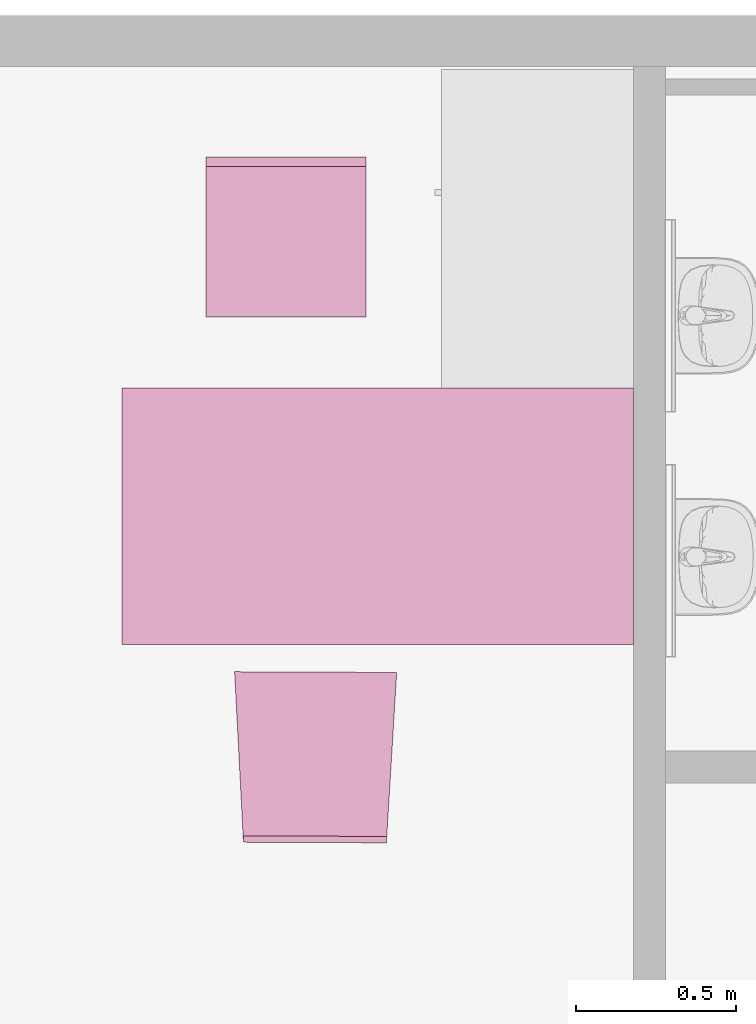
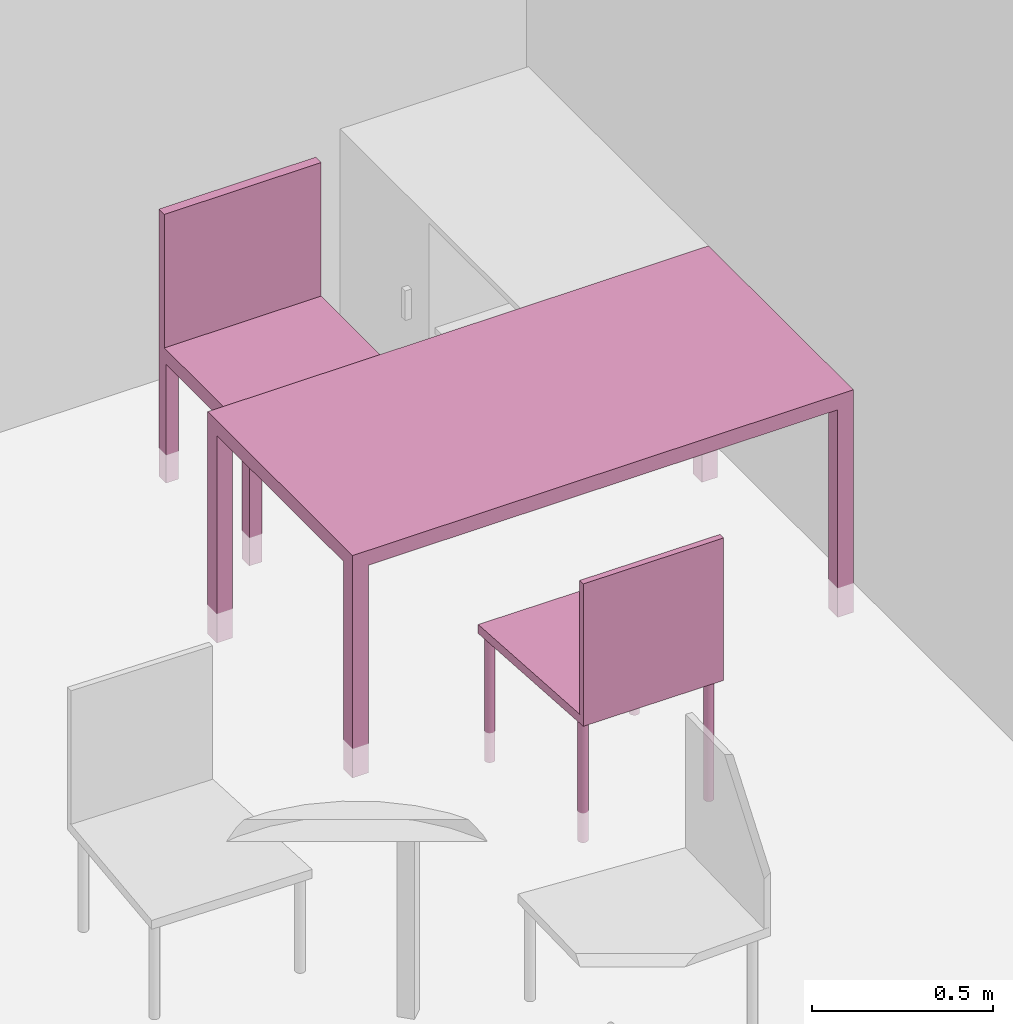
"""IFC4 building model written with IfcOpenShell, lengths in metres."""

from ifc_helpers import new_model, entity, si_unit, converted_unit, derived_unit, frame, origin, place, context, subcontext, project, spatial, faceted_brep, element, save


model = new_model("IFC4")

# Units and contexts
model_context = context("Model", 3, precision=1e-05, world=origin())
body_context = subcontext(model_context, "Body", "Model", "MODEL_VIEW")
ifc_project = project(units=[si_unit("LENGTHUNIT", "METRE"), si_unit("AREAUNIT", "SQUARE_METRE"), si_unit("VOLUMEUNIT", "CUBIC_METRE"), si_unit("MASSUNIT", "GRAM", prefix="KILO"), converted_unit("PLANEANGLEUNIT", "DEGREE", entity("IfcPlaneAngleMeasure", 0.0174532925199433), si_unit("PLANEANGLEUNIT", "RADIAN"), dimensions=[0, 0, 0, 0, 0, 0, 0]), derived_unit("THERMALTRANSMITTANCEUNIT", [(si_unit("POWERUNIT", "WATT"), 1), (si_unit("THERMODYNAMICTEMPERATUREUNIT", "KELVIN"), -1), (si_unit("LENGTHUNIT", "METRE"), -2)]), derived_unit("VOLUMETRICFLOWRATEUNIT", [(si_unit("LENGTHUNIT", "METRE"), 3), (converted_unit("TIMEUNIT", "hour", entity("IfcTimeMeasure", 3600.0), si_unit("TIMEUNIT", "SECOND"), dimensions=[0, 0, 1, 0, 0, 0, 0]), -1), (si_unit("LENGTHUNIT", "METRE"), -1)])], contexts=[model_context])

# Building, storeys
building_placement = place(None, origin())
building = spatial("IfcBuilding", under=ifc_project, at=building_placement, Name="HABITATGE PLURIFAMILIAR", CompositionType="ELEMENT")
storey_1_placement = place(building_placement, frame((0.0, 0.0, 9.26)))
storey_1 = spatial("IfcBuildingStorey", under=building, at=storey_1_placement, Name="PLANTA SEGONA", CompositionType="ELEMENT", Elevation=9.26)
storey_2_placement = place(storey_1_placement, frame((0.0, 0.0, 6.25)))
storey_2 = spatial("IfcBuildingStorey", under=storey_1, at=storey_2_placement, Name="NOU", CompositionType="PARTIAL")

# Furniture
furniture_1_placement = place(storey_2_placement, frame((402.739777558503, 26.2634510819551, -6.3499999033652)))
element("IfcFurniture", 1, at=furniture_1_placement, inside=storey_2, Name="Taula 160X80_P2", context=body_context, shape_type="Brep", body=[
    faceted_brep([(0.05, 0.05, 0.0), (0.0, 0.05, 0.0), (0.0, 0.0, 0.0), (0.05, 0.0, 0.0), (0.05, 0.0, 0.7), (0.0, 0.0, 0.7), (0.0, 0.05, 0.7), (0.05, 0.05, 0.7)], [[[0, 1, 2, 3]], [[4, 5, 6, 7]], [[3, 4, 7, 0]], [[2, 5, 4, 3]], [[1, 6, 5, 2]], [[0, 7, 6, 1]]], orient=[[False], [False], [False], [False], [False], [False]]),
    faceted_brep([(0.05, 0.800069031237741, 0.0), (0.0, 0.800069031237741, 0.0), (0.0, 0.750069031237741, 0.0), (0.05, 0.750069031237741, 0.0), (0.05, 0.750069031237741, 0.7), (0.0, 0.750069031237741, 0.7), (0.0, 0.800069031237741, 0.7), (0.05, 0.800069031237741, 0.7)], [[[0, 1, 2, 3]], [[4, 5, 6, 7]], [[3, 4, 7, 0]], [[2, 5, 4, 3]], [[1, 6, 5, 2]], [[0, 7, 6, 1]]], orient=[[False], [False], [False], [False], [False], [False]]),
    faceted_brep([(1.596945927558, 0.800069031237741, 0.7), (0.0, 0.800069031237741, 0.7), (0.0, 0.0, 0.7), (1.596945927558, 0.0, 0.7), (1.596945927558, 0.0, 0.75), (0.0, 0.0, 0.75), (0.0, 0.800069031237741, 0.75), (1.596945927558, 0.800069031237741, 0.75)], [[[0, 1, 2, 3]], [[4, 5, 6, 7]], [[3, 4, 7, 0]], [[2, 5, 4, 3]], [[1, 6, 5, 2]], [[0, 7, 6, 1]]], orient=[[False], [False], [False], [False], [False], [False]]),
    faceted_brep([(1.596945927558, 0.05, 0.0), (1.546945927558, 0.05, 0.0), (1.546945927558, 0.0, 0.0), (1.596945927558, 0.0, 0.0), (1.596945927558, 0.0, 0.7), (1.546945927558, 0.0, 0.7), (1.546945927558, 0.05, 0.7), (1.596945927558, 0.05, 0.7)], [[[0, 1, 2, 3]], [[4, 5, 6, 7]], [[3, 4, 7, 0]], [[2, 5, 4, 3]], [[1, 6, 5, 2]], [[0, 7, 6, 1]]], orient=[[False], [False], [False], [False], [False], [False]]),
    faceted_brep([(1.596945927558, 0.800069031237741, 0.0), (1.546945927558, 0.800069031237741, 0.0), (1.546945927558, 0.750069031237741, 0.0), (1.596945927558, 0.750069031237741, 0.0), (1.596945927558, 0.750069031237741, 0.7), (1.546945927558, 0.750069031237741, 0.7), (1.546945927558, 0.800069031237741, 0.7), (1.596945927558, 0.800069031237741, 0.7)], [[[0, 1, 2, 3]], [[4, 5, 6, 7]], [[3, 4, 7, 0]], [[2, 5, 4, 3]], [[1, 6, 5, 2]], [[0, 7, 6, 1]]], orient=[[False], [False], [False], [False], [False], [False]]),
])
furniture_2_placement = place(storey_2_placement, frame((403.001024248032, 27.2855575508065, -6.34632642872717)))
element("IfcFurniture", 2, at=furniture_2_placement, inside=storey_2, Name="Cadira d'Oficina_P2", context=body_context, shape_type="Brep", body=[
    faceted_brep([(0.0, 0.0, 0.4), (0.5, 0.0, 0.4), (0.5, 0.5, 0.4), (0.0, 0.5, 0.4), (0.0, 0.5, 0.45), (0.5, 0.5, 0.45), (0.5, 0.0, 0.45), (0.0, 0.0, 0.45)], [[[0, 1, 2, 3]], [[4, 5, 6, 7]], [[3, 4, 7, 0]], [[2, 5, 4, 3]], [[1, 6, 5, 2]], [[0, 7, 6, 1]]], orient=[[False], [False], [False], [False], [False], [False]]),
    faceted_brep([(0.5, 0.46, 0.0), (0.5, 0.5, 0.0), (0.46, 0.5, 0.0), (0.46, 0.46, 0.0), (0.46, 0.46, 0.4), (0.46, 0.5, 0.4), (0.5, 0.5, 0.4), (0.5, 0.46, 0.4)], [[[0, 1, 2, 3]], [[4, 5, 6, 7]], [[3, 4, 7, 0]], [[2, 5, 4, 3]], [[1, 6, 5, 2]], [[0, 7, 6, 1]]], orient=[[False], [False], [False], [False], [False], [False]]),
    faceted_brep([(0.5, 0.0, 0.0), (0.5, 0.04, 0.0), (0.46, 0.04, 0.0), (0.46, 0.0, 0.0), (0.46, 0.0, 0.4), (0.46, 0.04, 0.4), (0.5, 0.04, 0.4), (0.5, 0.0, 0.4)], [[[0, 1, 2, 3]], [[4, 5, 6, 7]], [[3, 4, 7, 0]], [[2, 5, 4, 3]], [[1, 6, 5, 2]], [[0, 7, 6, 1]]], orient=[[False], [False], [False], [False], [False], [False]]),
    faceted_brep([(0.04, 0.46, 0.0), (0.04, 0.5, 0.0), (0.0, 0.5, 0.0), (0.0, 0.46, 0.0), (0.0, 0.46, 0.4), (0.0, 0.5, 0.4), (0.04, 0.5, 0.4), (0.04, 0.46, 0.4)], [[[0, 1, 2, 3]], [[4, 5, 6, 7]], [[3, 4, 7, 0]], [[2, 5, 4, 3]], [[1, 6, 5, 2]], [[0, 7, 6, 1]]], orient=[[False], [False], [False], [False], [False], [False]]),
    faceted_brep([(0.04, 0.0, 0.0), (0.04, 0.04, 0.0), (0.0, 0.04, 0.0), (0.0, 0.0, 0.0), (0.0, 0.0, 0.4), (0.0, 0.04, 0.4), (0.04, 0.04, 0.4), (0.04, 0.0, 0.4)], [[[0, 1, 2, 3]], [[4, 5, 6, 7]], [[3, 4, 7, 0]], [[2, 5, 4, 3]], [[1, 6, 5, 2]], [[0, 7, 6, 1]]], orient=[[False], [False], [False], [False], [False], [False]]),
    faceted_brep([(0.5, 0.47, 0.45), (0.5, 0.5, 0.45), (0.0, 0.5, 0.45), (0.0, 0.47, 0.45), (0.0, 0.47, 0.9), (0.0, 0.5, 0.9), (0.5, 0.5, 0.9), (0.5, 0.47, 0.9)], [[[0, 1, 2, 3]], [[4, 5, 6, 7]], [[3, 4, 7, 0]], [[2, 5, 4, 3]], [[1, 6, 5, 2]], [[0, 7, 6, 1]]], orient=[[False], [False], [False], [False], [False], [False]]),
])
furniture_3_placement = place(storey_2_placement, frame((403.090829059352, 25.6431705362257, -6.3514820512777)))
element("IfcFurniture", 3, at=furniture_3_placement, inside=storey_2, Name="Cadira confident_P2", context=body_context, shape_type="Brep", body=[
    faceted_brep([(0.467237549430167, 0.507545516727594, 0.0), (0.467453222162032, 0.504950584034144, 0.0), (0.468116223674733, 0.502432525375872, 0.0), (0.469206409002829, 0.500067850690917, 0.0), (0.470690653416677, 0.497928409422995, 0.0), (0.47252385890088, 0.496079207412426, 0.0), (0.474650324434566, 0.494576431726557, 0.0), (0.477005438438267, 0.493465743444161, 0.0), (0.479517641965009, 0.492780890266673, 0.0), (0.482110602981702, 0.492542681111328, 0.0), (0.484705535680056, 0.492758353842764, 0.0), (0.487223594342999, 0.493421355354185, 0.0), (0.489588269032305, 0.494511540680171, 0.0), (0.491727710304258, 0.495995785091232, 0.0), (0.493576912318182, 0.497828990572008, 0.0), (0.495079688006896, 0.499955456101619, 0.0), (0.496190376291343, 0.502310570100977, 0.0), (0.496875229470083, 0.504822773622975, 0.0), (0.49711343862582, 0.507415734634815, 0.0), (0.496897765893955, 0.510010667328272, 0.0), (0.496234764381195, 0.512528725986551, 0.0), (0.495144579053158, 0.514893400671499, 0.0), (0.493660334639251, 0.517032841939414, 0.0), (0.491827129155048, 0.51888204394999, 0.0), (0.489700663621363, 0.520384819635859, 0.0), (0.487345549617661, 0.521495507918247, 0.0), (0.484833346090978, 0.522180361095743, 0.0), (0.482240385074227, 0.522418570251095, 0.0), (0.479645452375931, 0.522202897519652, 0.0), (0.47712739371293, 0.521539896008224, 0.0), (0.474762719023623, 0.520449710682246, 0.0), (0.472623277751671, 0.518965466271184, 0.0), (0.470774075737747, 0.5171322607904, 0.0), (0.469271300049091, 0.515005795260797, 0.0), (0.468160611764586, 0.512650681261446, 0.0), (0.467475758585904, 0.510138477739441, 0.0), (0.467237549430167, 0.507545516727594, 0.448281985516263), (0.467475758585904, 0.510138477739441, 0.448281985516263), (0.468160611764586, 0.512650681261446, 0.448281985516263), (0.469271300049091, 0.515005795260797, 0.448281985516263), (0.470774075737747, 0.5171322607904, 0.448281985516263), (0.472623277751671, 0.518965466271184, 0.448281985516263), (0.474762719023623, 0.520449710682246, 0.448281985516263), (0.47712739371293, 0.521539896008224, 0.448281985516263), (0.479645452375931, 0.522202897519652, 0.448281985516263), (0.482240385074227, 0.522418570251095, 0.448281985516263), (0.484833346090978, 0.522180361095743, 0.448281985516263), (0.487345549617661, 0.521495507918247, 0.448281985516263), (0.489700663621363, 0.520384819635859, 0.448281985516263), (0.491827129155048, 0.51888204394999, 0.448281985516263), (0.493660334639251, 0.517032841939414, 0.448281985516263), (0.495144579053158, 0.514893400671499, 0.448281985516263), (0.496234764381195, 0.512528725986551, 0.448281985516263), (0.496897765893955, 0.510010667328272, 0.448281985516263), (0.49711343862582, 0.507415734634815, 0.448281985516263), (0.496875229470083, 0.504822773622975, 0.448281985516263), (0.496190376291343, 0.502310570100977, 0.448281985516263), (0.495079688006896, 0.499955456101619, 0.448281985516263), (0.493576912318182, 0.497828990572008, 0.448281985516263), (0.491727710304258, 0.495995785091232, 0.448281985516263), (0.489588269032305, 0.494511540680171, 0.448281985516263), (0.487223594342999, 0.493421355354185, 0.448281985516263), (0.484705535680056, 0.492758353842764, 0.448281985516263), (0.482110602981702, 0.492542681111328, 0.448281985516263), (0.479517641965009, 0.492780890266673, 0.448281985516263), (0.477005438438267, 0.493465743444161, 0.448281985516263), (0.474650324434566, 0.494576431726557, 0.448281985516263), (0.47252385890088, 0.496079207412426, 0.448281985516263), (0.470690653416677, 0.497928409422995, 0.448281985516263), (0.469206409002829, 0.500067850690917, 0.448281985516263), (0.468116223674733, 0.502432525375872, 0.448281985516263), (0.467453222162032, 0.504950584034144, 0.448281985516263)], [[[0, 1, 2, 3, 4, 5, 6, 7, 8, 9, 10, 11, 12, 13, 14, 15, 16, 17, 18, 19, 20, 21, 22, 23, 24, 25, 26, 27, 28, 29, 30, 31, 32, 33, 34, 35]], [[36, 37, 38, 39, 40, 41, 42, 43, 44, 45, 46, 47, 48, 49, 50, 51, 52, 53, 54, 55, 56, 57, 58, 59, 60, 61, 62, 63, 64, 65, 66, 67, 68, 69, 70, 71]], [[1, 0, 36, 71]], [[2, 1, 71, 70]], [[3, 2, 70, 69]], [[4, 3, 69, 68]], [[5, 4, 68, 67]], [[6, 5, 67, 66]], [[7, 6, 66, 65]], [[8, 7, 65, 64]], [[9, 8, 64, 63]], [[10, 9, 63, 62]], [[11, 10, 62, 61]], [[12, 11, 61, 60]], [[13, 12, 60, 59]], [[14, 13, 59, 58]], [[15, 14, 58, 57]], [[16, 15, 57, 56]], [[17, 16, 56, 55]], [[18, 17, 55, 54]], [[19, 18, 54, 53]], [[20, 19, 53, 52]], [[21, 20, 52, 51]], [[22, 21, 51, 50]], [[23, 22, 50, 49]], [[24, 23, 49, 48]], [[25, 24, 48, 47]], [[26, 25, 47, 46]], [[27, 26, 46, 45]], [[28, 27, 45, 44]], [[29, 28, 44, 43]], [[30, 29, 43, 42]], [[31, 30, 42, 41]], [[32, 31, 41, 40]], [[33, 32, 40, 39]], [[34, 33, 39, 38]], [[35, 34, 38, 37]], [[0, 35, 37, 36]]], orient=[[False], [False], [False], [False], [False], [False], [False], [False], [False], [False], [False], [False], [False], [False], [False], [False], [False], [False], [False], [False], [False], [False], [False], [False], [False], [False], [False], [False], [False], [False], [False], [False], [False], [False], [False], [False], [False], [False]]),
    faceted_brep([(0.437591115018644, 0.0452628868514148, 0.0), (0.437806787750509, 0.0426679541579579, 0.0), (0.43846978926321, 0.040149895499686, 0.0), (0.439559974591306, 0.0377852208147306, 0.0), (0.441044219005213, 0.0356457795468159, 0.0), (0.442877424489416, 0.0337965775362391, 0.0), (0.445003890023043, 0.0322938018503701, 0.0), (0.447359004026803, 0.0311831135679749, 0.0), (0.449871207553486, 0.0304982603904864, 0.0), (0.452464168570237, 0.0302600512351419, 0.0), (0.455059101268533, 0.0304757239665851, 0.0), (0.457577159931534, 0.0311387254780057, 0.0), (0.459941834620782, 0.0322289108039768, 0.0), (0.462081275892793, 0.0337131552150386, 0.0), (0.463930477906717, 0.0355463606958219, 0.0), (0.465433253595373, 0.0376728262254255, 0.0), (0.46654394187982, 0.0400279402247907, 0.0), (0.46722879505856, 0.0425401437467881, 0.0), (0.467467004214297, 0.0451331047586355, 0.0), (0.467251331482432, 0.0477280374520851, 0.0), (0.466588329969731, 0.050246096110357, 0.0), (0.465498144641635, 0.0526107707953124, 0.0), (0.464013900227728, 0.0547502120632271, 0.0), (0.462180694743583, 0.0565994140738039, 0.0), (0.460054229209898, 0.0581021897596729, 0.0), (0.457699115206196, 0.059212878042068, 0.0), (0.455186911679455, 0.0598977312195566, 0.0), (0.452593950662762, 0.0601359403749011, 0.0), (0.449999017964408, 0.0599202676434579, 0.0), (0.447480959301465, 0.0592572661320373, 0.0), (0.445116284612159, 0.0581670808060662, 0.0), (0.442976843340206, 0.0566828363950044, 0.0), (0.441127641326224, 0.0548496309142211, 0.0), (0.439624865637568, 0.0527231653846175, 0.0), (0.438514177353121, 0.0503680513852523, 0.0), (0.437829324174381, 0.0478558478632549, 0.0), (0.437591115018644, 0.0452628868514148, 0.448281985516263), (0.437829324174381, 0.0478558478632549, 0.448281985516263), (0.438514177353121, 0.0503680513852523, 0.448281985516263), (0.439624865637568, 0.0527231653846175, 0.448281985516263), (0.441127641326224, 0.0548496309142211, 0.448281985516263), (0.442976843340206, 0.0566828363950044, 0.448281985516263), (0.445116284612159, 0.0581670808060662, 0.448281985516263), (0.447480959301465, 0.0592572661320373, 0.448281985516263), (0.449999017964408, 0.0599202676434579, 0.448281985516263), (0.452593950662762, 0.0601359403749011, 0.448281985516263), (0.455186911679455, 0.0598977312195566, 0.448281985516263), (0.457699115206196, 0.059212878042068, 0.448281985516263), (0.460054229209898, 0.0581021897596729, 0.448281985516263), (0.462180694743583, 0.0565994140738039, 0.448281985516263), (0.464013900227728, 0.0547502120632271, 0.448281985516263), (0.465498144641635, 0.0526107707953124, 0.448281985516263), (0.466588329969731, 0.050246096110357, 0.448281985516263), (0.467251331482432, 0.0477280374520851, 0.448281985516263), (0.467467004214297, 0.0451331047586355, 0.448281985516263), (0.46722879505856, 0.0425401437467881, 0.448281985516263), (0.46654394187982, 0.0400279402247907, 0.448281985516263), (0.465433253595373, 0.0376728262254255, 0.448281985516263), (0.463930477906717, 0.0355463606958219, 0.448281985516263), (0.462081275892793, 0.0337131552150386, 0.448281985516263), (0.459941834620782, 0.0322289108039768, 0.448281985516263), (0.457577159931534, 0.0311387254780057, 0.448281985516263), (0.455059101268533, 0.0304757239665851, 0.448281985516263), (0.452464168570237, 0.0302600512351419, 0.448281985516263), (0.449871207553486, 0.0304982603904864, 0.448281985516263), (0.447359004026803, 0.0311831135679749, 0.448281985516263), (0.445003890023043, 0.0322938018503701, 0.448281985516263), (0.442877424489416, 0.0337965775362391, 0.448281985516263), (0.441044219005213, 0.0356457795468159, 0.448281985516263), (0.439559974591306, 0.0377852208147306, 0.448281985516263), (0.43846978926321, 0.040149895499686, 0.448281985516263), (0.437806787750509, 0.0426679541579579, 0.448281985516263)], [[[0, 1, 2, 3, 4, 5, 6, 7, 8, 9, 10, 11, 12, 13, 14, 15, 16, 17, 18, 19, 20, 21, 22, 23, 24, 25, 26, 27, 28, 29, 30, 31, 32, 33, 34, 35]], [[36, 37, 38, 39, 40, 41, 42, 43, 44, 45, 46, 47, 48, 49, 50, 51, 52, 53, 54, 55, 56, 57, 58, 59, 60, 61, 62, 63, 64, 65, 66, 67, 68, 69, 70, 71]], [[1, 0, 36, 71]], [[2, 1, 71, 70]], [[3, 2, 70, 69]], [[4, 3, 69, 68]], [[5, 4, 68, 67]], [[6, 5, 67, 66]], [[7, 6, 66, 65]], [[8, 7, 65, 64]], [[9, 8, 64, 63]], [[10, 9, 63, 62]], [[11, 10, 62, 61]], [[12, 11, 61, 60]], [[13, 12, 60, 59]], [[14, 13, 59, 58]], [[15, 14, 58, 57]], [[16, 15, 57, 56]], [[17, 16, 56, 55]], [[18, 17, 55, 54]], [[19, 18, 54, 53]], [[20, 19, 53, 52]], [[21, 20, 52, 51]], [[22, 21, 51, 50]], [[23, 22, 50, 49]], [[24, 23, 49, 48]], [[25, 24, 48, 47]], [[26, 25, 47, 46]], [[27, 26, 46, 45]], [[28, 27, 45, 44]], [[29, 28, 44, 43]], [[30, 29, 43, 42]], [[31, 30, 42, 41]], [[32, 31, 41, 40]], [[33, 32, 40, 39]], [[34, 33, 39, 38]], [[35, 34, 38, 37]], [[0, 35, 37, 36]]], orient=[[False], [False], [False], [False], [False], [False], [False], [False], [False], [False], [False], [False], [False], [False], [False], [False], [False], [False], [False], [False], [False], [False], [False], [False], [False], [False], [False], [False], [False], [False], [False], [False], [False], [False], [False], [False], [False], [False]]),
    faceted_brep([(0.00724188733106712, 0.509543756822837, 0.0), (0.00745756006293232, 0.50694882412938, 0.0), (0.00812056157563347, 0.504430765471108, 0.0), (0.00921074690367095, 0.50206609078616, 0.0), (0.0106949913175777, 0.499926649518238, 0.0), (0.0125281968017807, 0.498077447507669, 0.0), (0.0146546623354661, 0.4965746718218, 0.0), (0.0170097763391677, 0.495463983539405, 0.0), (0.0195219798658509, 0.494779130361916, 0.0), (0.0221149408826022, 0.494540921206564, 0.0), (0.0247098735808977, 0.494756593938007, 0.0), (0.027227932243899, 0.495419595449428, 0.0), (0.0295926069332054, 0.496509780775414, 0.0), (0.0317320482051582, 0.497994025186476, 0.0), (0.033581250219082, 0.499827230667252, 0.0), (0.0350840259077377, 0.501953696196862, 0.0), (0.0361947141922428, 0.50430881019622, 0.0), (0.0368795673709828, 0.50682101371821, 0.0), (0.0371177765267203, 0.509413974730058, 0.0), (0.0369021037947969, 0.512008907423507, 0.0), (0.0362391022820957, 0.514526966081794, 0.0), (0.0351489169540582, 0.516891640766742, 0.0), (0.0336646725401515, 0.519031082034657, 0.0), (0.0318314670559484, 0.520880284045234, 0.0), (0.029705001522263, 0.522383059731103, 0.0), (0.0273498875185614, 0.52349374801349, 0.0), (0.0248376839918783, 0.524178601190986, 0.0), (0.0222447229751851, 0.524416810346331, 0.0), (0.0196497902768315, 0.524201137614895, 0.0), (0.0171317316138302, 0.523538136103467, 0.0), (0.0147670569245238, 0.522447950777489, 0.0), (0.012627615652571, 0.520963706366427, 0.0), (0.0107784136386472, 0.519130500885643, 0.0), (0.00927563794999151, 0.51700403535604, 0.0), (0.00816494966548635, 0.514648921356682, 0.0), (0.00748009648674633, 0.512136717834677, 0.0), (0.00724188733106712, 0.509543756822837, 0.448281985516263), (0.00748009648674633, 0.512136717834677, 0.448281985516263), (0.00816494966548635, 0.514648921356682, 0.448281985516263), (0.00927563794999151, 0.51700403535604, 0.448281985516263), (0.0107784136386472, 0.519130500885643, 0.448281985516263), (0.012627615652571, 0.520963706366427, 0.448281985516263), (0.0147670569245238, 0.522447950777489, 0.448281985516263), (0.0171317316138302, 0.523538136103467, 0.448281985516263), (0.0196497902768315, 0.524201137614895, 0.448281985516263), (0.0222447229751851, 0.524416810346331, 0.448281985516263), (0.0248376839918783, 0.524178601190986, 0.448281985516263), (0.0273498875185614, 0.52349374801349, 0.448281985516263), (0.029705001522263, 0.522383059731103, 0.448281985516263), (0.0318314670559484, 0.520880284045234, 0.448281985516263), (0.0336646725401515, 0.519031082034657, 0.448281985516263), (0.0351489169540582, 0.516891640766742, 0.448281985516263), (0.0362391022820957, 0.514526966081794, 0.448281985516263), (0.0369021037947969, 0.512008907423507, 0.448281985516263), (0.0371177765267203, 0.509413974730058, 0.448281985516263), (0.0368795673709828, 0.50682101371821, 0.448281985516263), (0.0361947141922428, 0.50430881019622, 0.448281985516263), (0.0350840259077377, 0.501953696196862, 0.448281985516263), (0.033581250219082, 0.499827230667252, 0.448281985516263), (0.0317320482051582, 0.497994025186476, 0.448281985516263), (0.0295926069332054, 0.496509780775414, 0.448281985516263), (0.027227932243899, 0.495419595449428, 0.448281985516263), (0.0247098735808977, 0.494756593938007, 0.448281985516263), (0.0221149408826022, 0.494540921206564, 0.448281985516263), (0.0195219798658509, 0.494779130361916, 0.448281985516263), (0.0170097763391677, 0.495463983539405, 0.448281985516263), (0.0146546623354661, 0.4965746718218, 0.448281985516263), (0.0125281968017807, 0.498077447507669, 0.448281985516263), (0.0106949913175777, 0.499926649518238, 0.448281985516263), (0.00921074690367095, 0.50206609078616, 0.448281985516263), (0.00812056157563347, 0.504430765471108, 0.448281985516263), (0.00745756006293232, 0.50694882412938, 0.448281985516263)], [[[0, 1, 2, 3, 4, 5, 6, 7, 8, 9, 10, 11, 12, 13, 14, 15, 16, 17, 18, 19, 20, 21, 22, 23, 24, 25, 26, 27, 28, 29, 30, 31, 32, 33, 34, 35]], [[36, 37, 38, 39, 40, 41, 42, 43, 44, 45, 46, 47, 48, 49, 50, 51, 52, 53, 54, 55, 56, 57, 58, 59, 60, 61, 62, 63, 64, 65, 66, 67, 68, 69, 70, 71]], [[1, 0, 36, 71]], [[2, 1, 71, 70]], [[3, 2, 70, 69]], [[4, 3, 69, 68]], [[5, 4, 68, 67]], [[6, 5, 67, 66]], [[7, 6, 66, 65]], [[8, 7, 65, 64]], [[9, 8, 64, 63]], [[10, 9, 63, 62]], [[11, 10, 62, 61]], [[12, 11, 61, 60]], [[13, 12, 60, 59]], [[14, 13, 59, 58]], [[15, 14, 58, 57]], [[16, 15, 57, 56]], [[17, 16, 56, 55]], [[18, 17, 55, 54]], [[19, 18, 54, 53]], [[20, 19, 53, 52]], [[21, 20, 52, 51]], [[22, 21, 51, 50]], [[23, 22, 50, 49]], [[24, 23, 49, 48]], [[25, 24, 48, 47]], [[26, 25, 47, 46]], [[27, 26, 46, 45]], [[28, 27, 45, 44]], [[29, 28, 44, 43]], [[30, 29, 43, 42]], [[31, 30, 42, 41]], [[32, 31, 41, 40]], [[33, 32, 40, 39]], [[34, 33, 39, 38]], [[35, 34, 38, 37]], [[0, 35, 37, 36]]], orient=[[False], [False], [False], [False], [False], [False], [False], [False], [False], [False], [False], [False], [False], [False], [False], [False], [False], [False], [False], [False], [False], [False], [False], [False], [False], [False], [False], [False], [False], [False], [False], [False], [False], [False], [False], [False], [False], [False]]),
    faceted_brep([(0.0375948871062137, 0.047000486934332, 0.0), (0.0378105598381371, 0.0444055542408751, 0.0), (0.0384735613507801, 0.0418874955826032, 0.0), (0.0395637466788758, 0.0395228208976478, 0.0), (0.0410479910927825, 0.0373833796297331, 0.0), (0.0428811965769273, 0.0355341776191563, 0.0), (0.0450076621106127, 0.0340314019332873, 0.0), (0.0473627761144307, 0.0329207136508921, 0.0), (0.0498749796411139, 0.0322358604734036, 0.0), (0.052467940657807, 0.0319976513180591, 0.0), (0.0550628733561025, 0.0322133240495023, 0.0), (0.0575809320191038, 0.0328763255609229, 0.0), (0.0599456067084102, 0.033966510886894, 0.0), (0.062085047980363, 0.0354507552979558, 0.0), (0.063934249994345, 0.0372839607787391, 0.0), (0.0654370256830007, 0.0394104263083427, 0.0), (0.0665477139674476, 0.0417655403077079, 0.0), (0.0672325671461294, 0.0442777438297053, 0.0), (0.0674707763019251, 0.0468707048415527, 0.0), (0.0672551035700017, 0.0494656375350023, 0.0), (0.0665921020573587, 0.0519836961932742, 0.0), (0.065501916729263, 0.0543483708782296, 0.0), (0.0640176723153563, 0.0564878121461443, 0.0), (0.0621844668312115, 0.0583370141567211, 0.0), (0.0600580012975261, 0.0598397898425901, 0.0), (0.0577028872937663, 0.0609504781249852, 0.0), (0.0551906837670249, 0.0616353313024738, 0.0), (0.0525977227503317, 0.0618735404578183, 0.0), (0.0500027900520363, 0.0616578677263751, 0.0), (0.0474847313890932, 0.0609948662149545, 0.0), (0.0451200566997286, 0.0599046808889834, 0.0), (0.0429806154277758, 0.0584204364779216, 0.0), (0.0411314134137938, 0.0565872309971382, 0.0), (0.0396286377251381, 0.0544607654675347, 0.0), (0.0385179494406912, 0.0521056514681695, 0.0), (0.0378330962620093, 0.0495934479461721, 0.0), (0.0375948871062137, 0.047000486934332, 0.448281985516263), (0.0378330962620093, 0.0495934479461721, 0.448281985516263), (0.0385179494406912, 0.0521056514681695, 0.448281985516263), (0.0396286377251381, 0.0544607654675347, 0.448281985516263), (0.0411314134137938, 0.0565872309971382, 0.448281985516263), (0.0429806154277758, 0.0584204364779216, 0.448281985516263), (0.0451200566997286, 0.0599046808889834, 0.448281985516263), (0.0474847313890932, 0.0609948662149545, 0.448281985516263), (0.0500027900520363, 0.0616578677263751, 0.448281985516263), (0.0525977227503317, 0.0618735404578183, 0.448281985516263), (0.0551906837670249, 0.0616353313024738, 0.448281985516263), (0.0577028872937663, 0.0609504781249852, 0.448281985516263), (0.0600580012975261, 0.0598397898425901, 0.448281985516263), (0.0621844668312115, 0.0583370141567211, 0.448281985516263), (0.0640176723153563, 0.0564878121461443, 0.448281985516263), (0.065501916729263, 0.0543483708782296, 0.448281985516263), (0.0665921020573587, 0.0519836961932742, 0.448281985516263), (0.0672551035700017, 0.0494656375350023, 0.448281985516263), (0.0674707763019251, 0.0468707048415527, 0.448281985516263), (0.0672325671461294, 0.0442777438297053, 0.448281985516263), (0.0665477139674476, 0.0417655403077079, 0.448281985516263), (0.0654370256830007, 0.0394104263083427, 0.448281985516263), (0.063934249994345, 0.0372839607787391, 0.448281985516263), (0.062085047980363, 0.0354507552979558, 0.448281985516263), (0.0599456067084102, 0.033966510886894, 0.448281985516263), (0.0575809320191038, 0.0328763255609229, 0.448281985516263), (0.0550628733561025, 0.0322133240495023, 0.448281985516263), (0.052467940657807, 0.0319976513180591, 0.448281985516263), (0.0498749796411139, 0.0322358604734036, 0.448281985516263), (0.0473627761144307, 0.0329207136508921, 0.448281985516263), (0.0450076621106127, 0.0340314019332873, 0.448281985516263), (0.0428811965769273, 0.0355341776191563, 0.448281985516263), (0.0410479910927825, 0.0373833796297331, 0.448281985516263), (0.0395637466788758, 0.0395228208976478, 0.448281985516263), (0.0384735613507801, 0.0418874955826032, 0.448281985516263), (0.0378105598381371, 0.0444055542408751, 0.448281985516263)], [[[0, 1, 2, 3, 4, 5, 6, 7, 8, 9, 10, 11, 12, 13, 14, 15, 16, 17, 18, 19, 20, 21, 22, 23, 24, 25, 26, 27, 28, 29, 30, 31, 32, 33, 34, 35]], [[36, 37, 38, 39, 40, 41, 42, 43, 44, 45, 46, 47, 48, 49, 50, 51, 52, 53, 54, 55, 56, 57, 58, 59, 60, 61, 62, 63, 64, 65, 66, 67, 68, 69, 70, 71]], [[1, 0, 36, 71]], [[2, 1, 71, 70]], [[3, 2, 70, 69]], [[4, 3, 69, 68]], [[5, 4, 68, 67]], [[6, 5, 67, 66]], [[7, 6, 66, 65]], [[8, 7, 65, 64]], [[9, 8, 64, 63]], [[10, 9, 63, 62]], [[11, 10, 62, 61]], [[12, 11, 61, 60]], [[13, 12, 60, 59]], [[14, 13, 59, 58]], [[15, 14, 58, 57]], [[16, 15, 57, 56]], [[17, 16, 56, 55]], [[18, 17, 55, 54]], [[19, 18, 54, 53]], [[20, 19, 53, 52]], [[21, 20, 52, 51]], [[22, 21, 51, 50]], [[23, 22, 50, 49]], [[24, 23, 49, 48]], [[25, 24, 48, 47]], [[26, 25, 47, 46]], [[27, 26, 46, 45]], [[28, 27, 45, 44]], [[29, 28, 44, 43]], [[30, 29, 43, 42]], [[31, 30, 42, 41]], [[32, 31, 41, 40]], [[33, 32, 40, 39]], [[34, 33, 39, 38]], [[35, 34, 38, 37]], [[0, 35, 37, 36]]], orient=[[False], [False], [False], [False], [False], [False], [False], [False], [False], [False], [False], [False], [False], [False], [False], [False], [False], [False], [False], [False], [False], [False], [False], [False], [False], [False], [False], [False], [False], [False], [False], [False], [False], [False], [False], [False], [False], [False]]),
    faceted_brep([(0.0276860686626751, 0.0019396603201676, 0.418281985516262), (0.474196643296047, 0.0, 0.418281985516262), (0.5065100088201, 0.532472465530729, 0.418281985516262), (0.0, 0.534672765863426, 0.418281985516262), (0.0, 0.534672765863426, 0.448281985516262), (0.5065100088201, 0.532472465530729, 0.448281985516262), (0.474196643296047, 0.0, 0.448281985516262), (0.0276860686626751, 0.0019396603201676, 0.448281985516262)], [[[0, 1, 2, 3]], [[4, 5, 6, 7]], [[3, 4, 7, 0]], [[2, 5, 4, 3]], [[1, 6, 5, 2]], [[0, 7, 6, 1]]], orient=[[False], [False], [False], [False], [False], [False]]),
    faceted_brep([(0.0277729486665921, 0.0219394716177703, 0.448281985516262), (0.0276860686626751, 0.0019396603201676, 0.448281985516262), (0.474196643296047, 0.0, 0.448281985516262), (0.474283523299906, 0.0199998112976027, 0.448281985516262), (0.474283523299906, 0.0199998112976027, 0.898281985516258), (0.474196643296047, 0.0, 0.898281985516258), (0.0276860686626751, 0.0019396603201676, 0.898281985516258), (0.0277729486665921, 0.0219394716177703, 0.898281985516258)], [[[0, 1, 2, 3]], [[4, 5, 6, 7]], [[3, 4, 7, 0]], [[2, 5, 4, 3]], [[1, 6, 5, 2]], [[0, 7, 6, 1]]], orient=[[False], [False], [False], [False], [False], [False]]),
])

save(model, "model.ifc")
